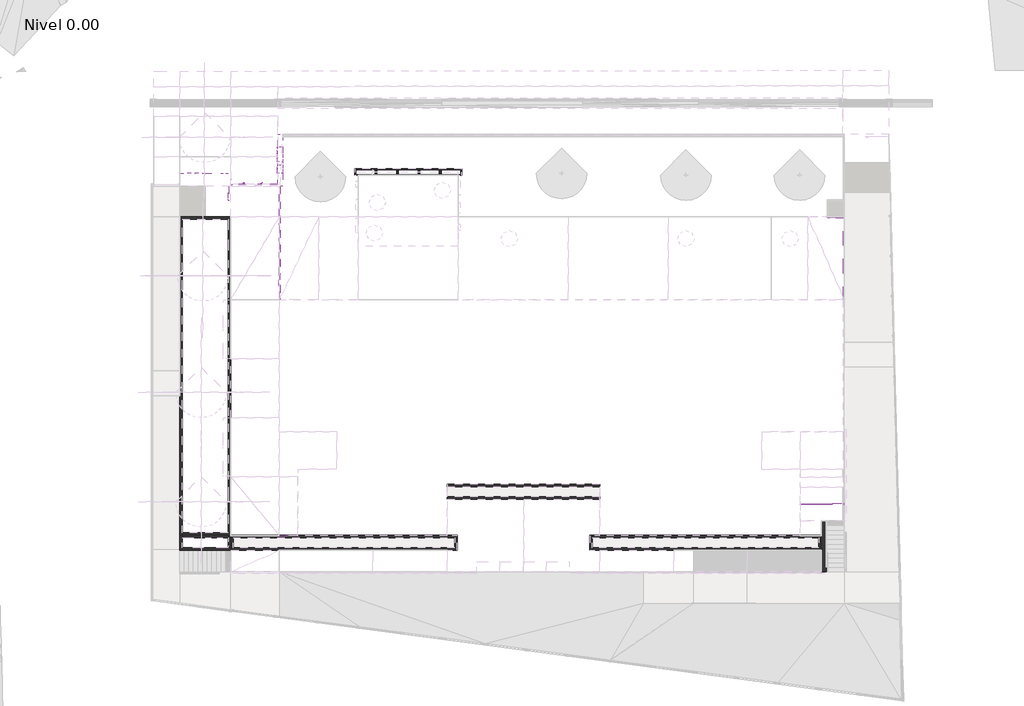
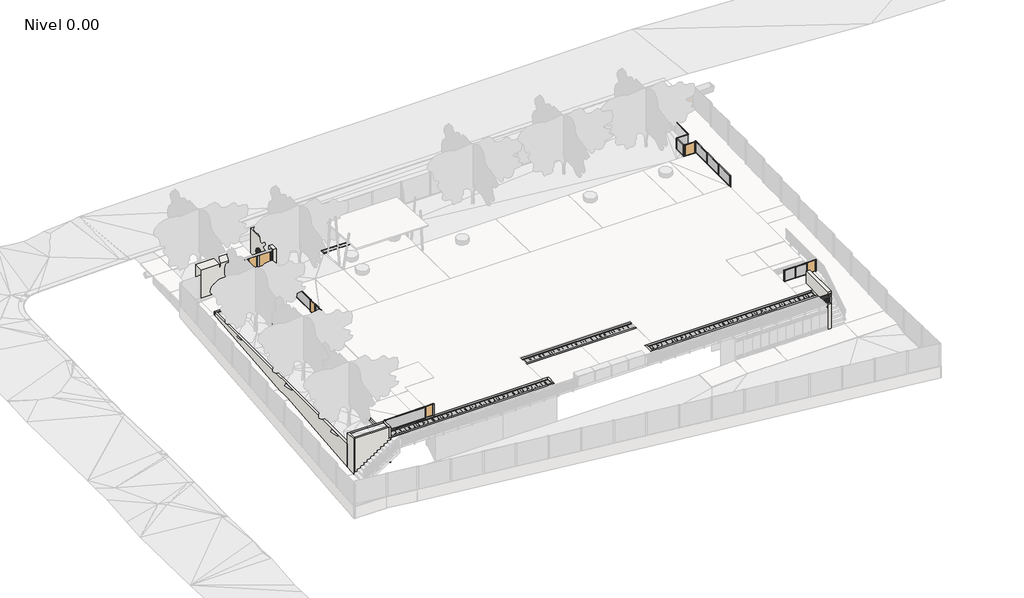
# One storey, part 1 of 10: 44 members, 33 walls, 10 plates, 7 doors, 2 windows.
"""IFC4 building model written with IfcOpenShell, lengths in millimetres."""

from ifc_helpers import new_model, si_unit, point, frame, frame_2d, origin, place, context, project, spatial, polyline, circle_curve, trimmed, segment, composite_curve, outline, extrude, faceted_brep, transform, mapped, element, save
from components import door_cf6ba6fa, door_d07a92cc, door_a481ca0a, door_52eb93c6, door_091492a4, door_068d60f1, door_34f0c045, rectangular_mullion_c413cd77, rectangular_mullion_c5fa3d75, rectangular_mullion_84e40a56, rectangular_mullion_3d152aff, rectangular_mullion_c6d73319, rectangular_mullion_d8214069, rectangular_mullion_757003fa, rectangular_mullion_abe161ce, rectangular_mullion_14b3989e, rectangular_mullion_b59bd4ae, rectangular_mullion_01378f82, rectangular_mullion_9e2e89eb, rectangular_mullion_f37d23f4, rectangular_mullion_c9c61bd4, rectangular_mullion_6e12e53f, system_panel_af5bab94, system_panel_932d7ef2, system_panel_01490582, system_panel_8750a649, system_panel_b523d4b8, system_panel_e05096ac, system_panel_b7fae75c, system_panel_18225d18, wall_07366346, window_e00e36fa, window_6bd4aa59

model = new_model("IFC4")

# Units and contexts
model_context = context("Model", 3, world=origin())
ifc_project = project(units=[si_unit("LENGTHUNIT", "METRE", prefix="MILLI")], contexts=[model_context])

# Site, building, storey
site = spatial("IfcSite", under=ifc_project)
building = spatial("IfcBuilding", under=site)
storey = spatial("IfcBuildingStorey", under=building, Name="Nivel 0.00", Elevation=0.0)

# Doors
placement = place(None, origin())
door_shape = door_cf6ba6fa(model_context)
element("IfcDoor", 1, ObjectType="PUERTA_REJA : PUERTA_REJA", at=placement, inside=storey, context=model_context, shape_type="MappedRepresentation", body=[
    mapped(door_shape, transform((-16804.7163958, 7729.2316763, 1500.0), x_axis=(1.0, 0.0, 0.0), y_axis=(0.0, 1.0, 0.0), z_axis=(0.0, 0.0, 1.0))),
])
door_2_shape = door_d07a92cc(model_context)
element("IfcDoor", 2, ObjectType="PORTON_REJA : PORTON_REJA", at=placement, inside=storey, context=model_context, shape_type="MappedRepresentation", body=[
    mapped(door_2_shape, transform((-18181.0857108, 7729.2316763, 1500.0), x_axis=(-1.0, 0.0, 0.0), y_axis=(0.0, -1.0, 0.0), z_axis=(0.0, 0.0, 1.0))),
])
door_3_shape = door_a481ca0a(model_context)
element("IfcDoor", 3, ObjectType="PUERTA_REJA_BAJA : PUERTA_REJA_BAJA", at=placement, inside=storey, context=model_context, shape_type="MappedRepresentation", body=[
    mapped(door_3_shape, transform((17605.9383945, -11567.4407068, 1520.0), x_axis=(1.0, 0.0, 0.0), y_axis=(0.0, 1.0, 0.0), z_axis=(0.0, 0.0, 1.0))),
])
door_4_shape = door_52eb93c6(model_context)
element("IfcDoor", 4, ObjectType="PUERTA_REJA_BAJA : PUERTA_REJA_BAJA", at=placement, inside=storey, context=model_context, shape_type="MappedRepresentation", body=[
    mapped(door_4_shape, transform((-15330.315191, -13485.5485726, 1520.0), x_axis=(1.0, 0.0, 0.0), y_axis=(0.0, 1.0, 0.0), z_axis=(0.0, 0.0, 1.0))),
])
door_5_shape = door_091492a4(model_context)
element("IfcDoor", 5, ObjectType="PUERTA_REJA_BAJA : PUERTA_REJA_BAJA", at=placement, inside=storey, context=model_context, shape_type="MappedRepresentation", body=[
    mapped(door_5_shape, transform((-16081.443742, 1973.925808, 1520.0), x_axis=(0.0, -1.0, 0.0), y_axis=(1.0, 0.0, 0.0), z_axis=(0.0, 0.0, 1.0))),
])
door_6_shape = door_068d60f1(model_context)
element("IfcDoor", 6, ObjectType="PORTON_REJA_baja : PORTON_REJA_baja", at=placement, inside=storey, context=model_context, shape_type="MappedRepresentation", body=[
    mapped(door_6_shape, transform((-19181.6280633, 6750.6088239, 1550.0), x_axis=(0.0, -1.0, 0.0), y_axis=(1.0, 0.0, 0.0), z_axis=(0.0, 0.0, 1.0))),
])
door_7_shape = door_34f0c045(model_context)
element("IfcDoor", 7, ObjectType="PUERTA_REJA_BAJA : PUERTA_REJA_BAJA", at=placement, inside=storey, context=model_context, shape_type="MappedRepresentation", body=[
    mapped(door_7_shape, transform((17473.4014064, 5761.4923287, 1500.0), x_axis=(1.0, 0.0, 0.0), y_axis=(0.0, 1.0, 0.0), z_axis=(0.0, 0.0, 1.0))),
])

# Members
rectangular_mullion_shape = rectangular_mullion_c413cd77(model_context)
element("IfcMember", 8, ObjectType="Rectangular Mullion : ARQ_REJA_PILAR_100x100mm", at=placement, inside=storey, context=model_context, shape_type="MappedRepresentation", body=[
    mapped(rectangular_mullion_shape, transform((-17354.5998704, 7729.2316763, 1500.0), x_axis=(-1.0, 0.0, 0.0), y_axis=(0.0, 1.0, 0.0), z_axis=(0.0, 0.0, -1.0))),
])
rectangular_mullion_2_shape = rectangular_mullion_c5fa3d75(model_context)
element("IfcMember", 9, ObjectType="Rectangular Mullion : ARQ_REJA_PILAR_100x100mm", at=placement, inside=storey, context=model_context, shape_type="MappedRepresentation", body=[
    mapped(rectangular_mullion_2_shape, transform((-19057.5715512, 7729.2316763, 1500.0), x_axis=(-1.0, 0.0, 0.0), y_axis=(0.0, 1.0, 0.0), z_axis=(0.0, 0.0, -1.0))),
])
element("IfcMember", 10, ObjectType="Rectangular Mullion : ARQ_REJA_PILAR_100x100mm", at=placement, inside=storey, context=model_context, shape_type="MappedRepresentation", body=[
    mapped(rectangular_mullion_2_shape, transform((-16204.8329211, 7729.2316763, 3600.0), x_axis=(1.0, 0.0, 0.0), y_axis=(0.0, 1.0, 0.0), z_axis=(0.0, 0.0, 1.0))),
])
rectangular_mullion_3_shape = rectangular_mullion_84e40a56(model_context)
element("IfcMember", 11, ObjectType="Rectangular Mullion : ARQ_REJA_MULL_50x50mm", at=placement, inside=storey, context=model_context, shape_type="MappedRepresentation", body=[
    mapped(rectangular_mullion_3_shape, transform((17231.3510433, -11567.4407068, 1520.0), x_axis=(-1.0, 0.0, 0.0), y_axis=(0.0, 1.0, 0.0), z_axis=(0.0, 0.0, -1.0))),
])
element("IfcMember", 12, ObjectType="Rectangular Mullion : ARQ_REJA_MULL_50x50mm", at=placement, inside=storey, context=model_context, shape_type="MappedRepresentation", body=[
    mapped(rectangular_mullion_3_shape, transform((16277.1763413, -11567.4407068, 1520.0), x_axis=(-1.0, 0.0, 0.0), y_axis=(0.0, 1.0, 0.0), z_axis=(0.0, 0.0, -1.0))),
])
element("IfcMember", 13, ObjectType="Rectangular Mullion : ARQ_REJA_MULL_50x50mm", at=placement, inside=storey, context=model_context, shape_type="MappedRepresentation", body=[
    mapped(rectangular_mullion_3_shape, transform((-15680.2663323, -13485.5485726, 1520.0), x_axis=(-1.0, 0.0, 0.0), y_axis=(0.0, 1.0, 0.0), z_axis=(0.0, 0.0, -1.0))),
])
element("IfcMember", 14, ObjectType="Rectangular Mullion : ARQ_REJA_MULL_50x50mm", at=placement, inside=storey, context=model_context, shape_type="MappedRepresentation", body=[
    mapped(rectangular_mullion_3_shape, transform((-16081.443742, 1624.0321854, 1520.0), x_axis=(0.0, 1.0, 0.0), y_axis=(1.0, 0.0, 0.0), z_axis=(0.0, 0.0, -1.0))),
])
element("IfcMember", 15, ObjectType="Rectangular Mullion : ARQ_REJA_MULL_50x50mm", at=placement, inside=storey, context=model_context, shape_type="MappedRepresentation", body=[
    mapped(rectangular_mullion_3_shape, transform((-16081.443742, 2323.8194307, 1520.0), x_axis=(0.0, 1.0, 0.0), y_axis=(1.0, 0.0, 0.0), z_axis=(0.0, 0.0, -1.0))),
])
rectangular_mullion_4_shape = rectangular_mullion_3d152aff(model_context)
element("IfcMember", 16, ObjectType="Rectangular Mullion : ARQ_REJA_MULL_50x50mm", at=placement, inside=storey, context=model_context, shape_type="MappedRepresentation", body=[
    mapped(rectangular_mullion_4_shape, transform((15325.501639, -11567.4407068, 1520.0), x_axis=(-1.0, 0.0, 0.0), y_axis=(0.0, 1.0, 0.0), z_axis=(0.0, 0.0, -1.0))),
])
element("IfcMember", 17, ObjectType="Rectangular Mullion : ARQ_REJA_MULL_50x50mm", at=placement, inside=storey, context=model_context, shape_type="MappedRepresentation", body=[
    mapped(rectangular_mullion_4_shape, transform((-19057.5708971, -13485.5485726, 1520.0), x_axis=(-1.0, 0.0, 0.0), y_axis=(0.0, 1.0, 0.0), z_axis=(0.0, 0.0, -1.0))),
])
element("IfcMember", 18, ObjectType="Rectangular Mullion : ARQ_REJA_MULL_50x50mm", at=placement, inside=storey, context=model_context, shape_type="MappedRepresentation", body=[
    mapped(rectangular_mullion_4_shape, transform((-16081.443742, 7629.2316763, 1520.0), x_axis=(0.0, 1.0, 0.0), y_axis=(1.0, 0.0, 0.0), z_axis=(0.0, 0.0, -1.0))),
])
rectangular_mullion_5_shape = rectangular_mullion_c6d73319(model_context)
element("IfcMember", 19, ObjectType="Rectangular Mullion : ARQ_REJA_MULL_50x30mm", at=placement, inside=storey, context=model_context, shape_type="MappedRepresentation", body=[
    mapped(rectangular_mullion_5_shape, transform((15375.501639, -11567.4407068, 2520.0), x_axis=(0.0, 0.0, 1.0), y_axis=(0.0, 1.0, 0.0), z_axis=(-1.0, 0.0, 0.0))),
])
rectangular_mullion_6_shape = rectangular_mullion_d8214069(model_context)
element("IfcMember", 20, ObjectType="Rectangular Mullion : ARQ_REJA_MULL_50x30mm", at=placement, inside=storey, context=model_context, shape_type="MappedRepresentation", body=[
    mapped(rectangular_mullion_6_shape, transform((17206.3510433, -11567.4407068, 1520.0), x_axis=(0.0, 0.0, -1.0), y_axis=(0.0, 1.0, 0.0), z_axis=(1.0, 0.0, 0.0))),
])
element("IfcMember", 21, ObjectType="Rectangular Mullion : ARQ_REJA_MULL_50x30mm", at=placement, inside=storey, context=model_context, shape_type="MappedRepresentation", body=[
    mapped(rectangular_mullion_6_shape, transform((16302.1763413, -11567.4407068, 2520.0), x_axis=(0.0, 0.0, 1.0), y_axis=(0.0, 1.0, 0.0), z_axis=(-1.0, 0.0, 0.0))),
])
element("IfcMember", 22, ObjectType="Rectangular Mullion : ARQ_REJA_MULL_50x30mm", at=placement, inside=storey, context=model_context, shape_type="MappedRepresentation", body=[
    mapped(rectangular_mullion_5_shape, transform((16252.1763413, -11567.4407068, 1520.0), x_axis=(0.0, 0.0, -1.0), y_axis=(0.0, 1.0, 0.0), z_axis=(1.0, 0.0, 0.0))),
])
element("IfcMember", 23, ObjectType="Rectangular Mullion : ARQ_REJA_MULL_50x50mm", at=placement, inside=storey, context=model_context, shape_type="MappedRepresentation", body=[
    mapped(rectangular_mullion_4_shape, transform((18005.5257456, -11567.4407068, 2520.0), x_axis=(1.0, 0.0, 0.0), y_axis=(0.0, 1.0, 0.0), z_axis=(0.0, 0.0, 1.0))),
])
element("IfcMember", 24, ObjectType="Rectangular Mullion : ARQ_REJA_MULL_50x50mm", at=placement, inside=storey, context=model_context, shape_type="MappedRepresentation", body=[
    mapped(rectangular_mullion_4_shape, transform((-14955.3640497, -13485.5485726, 2520.0), x_axis=(1.0, 0.0, 0.0), y_axis=(0.0, 1.0, 0.0), z_axis=(0.0, 0.0, 1.0))),
])
rectangular_mullion_7_shape = rectangular_mullion_757003fa(model_context)
element("IfcMember", 25, ObjectType="Rectangular Mullion : ARQ_REJA_MULL_50x30mm", at=placement, inside=storey, context=model_context, shape_type="MappedRepresentation", body=[
    mapped(rectangular_mullion_7_shape, transform((-19007.5708971, -13485.5485726, 2520.0), x_axis=(0.0, 0.0, 1.0), y_axis=(0.0, 1.0, 0.0), z_axis=(-1.0, 0.0, 0.0))),
])
element("IfcMember", 26, ObjectType="Rectangular Mullion : ARQ_REJA_MULL_50x30mm", at=placement, inside=storey, context=model_context, shape_type="MappedRepresentation", body=[
    mapped(rectangular_mullion_7_shape, transform((-15705.2663323, -13485.5485726, 1520.0), x_axis=(0.0, 0.0, -1.0), y_axis=(0.0, 1.0, 0.0), z_axis=(1.0, 0.0, 0.0))),
])
element("IfcMember", 27, ObjectType="Rectangular Mullion : ARQ_REJA_MULL_50x50mm", at=placement, inside=storey, context=model_context, shape_type="MappedRepresentation", body=[
    mapped(rectangular_mullion_4_shape, transform((-16081.443742, 775.4949398, 2520.0), x_axis=(0.0, -1.0, 0.0), y_axis=(1.0, 0.0, 0.0), z_axis=(0.0, 0.0, 1.0))),
])
rectangular_mullion_8_shape = rectangular_mullion_abe161ce(model_context)
element("IfcMember", 28, ObjectType="Rectangular Mullion : ARQ_REJA_MULL_50x30mm", at=placement, inside=storey, context=model_context, shape_type="MappedRepresentation", body=[
    mapped(rectangular_mullion_8_shape, transform((-16081.443742, 7579.2316763, 2520.0), x_axis=(0.0, 0.0, 1.0), y_axis=(1.0, 0.0, 0.0), z_axis=(0.0, 1.0, 0.0))),
])
element("IfcMember", 29, ObjectType="Rectangular Mullion : ARQ_REJA_MULL_50x30mm", at=placement, inside=storey, context=model_context, shape_type="MappedRepresentation", body=[
    mapped(rectangular_mullion_8_shape, transform((-16081.443742, 2348.8194307, 1520.0), x_axis=(0.0, 0.0, -1.0), y_axis=(1.0, 0.0, 0.0), z_axis=(0.0, -1.0, 0.0))),
])
rectangular_mullion_9_shape = rectangular_mullion_14b3989e(model_context)
element("IfcMember", 30, ObjectType="Rectangular Mullion : ARQ_REJA_MULL_50x30mm", at=placement, inside=storey, context=model_context, shape_type="MappedRepresentation", body=[
    mapped(rectangular_mullion_9_shape, transform((-16081.443742, 1599.0321854, 2520.0), x_axis=(0.0, 0.0, 1.0), y_axis=(1.0, 0.0, 0.0), z_axis=(0.0, 1.0, 0.0))),
])
element("IfcMember", 31, ObjectType="Rectangular Mullion : ARQ_REJA_MULL_50x30mm", at=placement, inside=storey, context=model_context, shape_type="MappedRepresentation", body=[
    mapped(rectangular_mullion_9_shape, transform((-16081.443742, 825.4949398, 1520.0), x_axis=(0.0, 0.0, -1.0), y_axis=(1.0, 0.0, 0.0), z_axis=(0.0, -1.0, 0.0))),
])
rectangular_mullion_10_shape = rectangular_mullion_b59bd4ae(model_context)
element("IfcMember", 32, ObjectType="Rectangular Mullion : ARQ_REJA_MULL_50x30mm", at=placement, inside=storey, context=model_context, shape_type="MappedRepresentation", body=[
    mapped(rectangular_mullion_10_shape, transform((17966.2770642, 6837.2563048, 2480.0), x_axis=(0.0, 0.0, 1.0), y_axis=(-1.0, 0.0, 0.0), z_axis=(0.0, -1.0, 0.0))),
])
rectangular_mullion_11_shape = rectangular_mullion_01378f82(model_context)
element("IfcMember", 33, ObjectType="Rectangular Mullion : ARQ_REJA_MULL_50x30mm", at=placement, inside=storey, context=model_context, shape_type="MappedRepresentation", body=[
    mapped(rectangular_mullion_11_shape, transform((17030.5257486, 6787.2563048, 2480.0), x_axis=(0.0, 0.0, 1.0), y_axis=(0.0, 1.0, 0.0), z_axis=(-1.0, 0.0, 0.0))),
])
rectangular_mullion_12_shape = rectangular_mullion_9e2e89eb(model_context)
element("IfcMember", 34, ObjectType="Rectangular Mullion : ARQ_REJA_MULL_50x50mm", at=placement, inside=storey, context=model_context, shape_type="MappedRepresentation", body=[
    mapped(rectangular_mullion_12_shape, transform((17966.2770642, 4088.1589952, 1500.0), x_axis=(0.0, -1.0, 0.0), y_axis=(-1.0, 0.0, 0.0), z_axis=(0.0, 0.0, -1.0))),
])
element("IfcMember", 35, ObjectType="Rectangular Mullion : ARQ_REJA_MULL_50x50mm", at=placement, inside=storey, context=model_context, shape_type="MappedRepresentation", body=[
    mapped(rectangular_mullion_12_shape, transform((17966.2770642, 2414.8256619, 1500.0), x_axis=(0.0, -1.0, 0.0), y_axis=(-1.0, 0.0, 0.0), z_axis=(0.0, 0.0, -1.0))),
])
rectangular_mullion_13_shape = rectangular_mullion_f37d23f4(model_context)
element("IfcMember", 36, ObjectType="Rectangular Mullion : ARQ_REJA_MULL_50x50mm", at=placement, inside=storey, context=model_context, shape_type="MappedRepresentation", body=[
    mapped(rectangular_mullion_13_shape, transform((17966.2770642, 6787.2563048, 1500.0), x_axis=(0.0, -1.0, 0.0), y_axis=(-1.0, 0.0, 0.0), z_axis=(0.0, 0.0, -1.0))),
])
element("IfcMember", 37, ObjectType="Rectangular Mullion : ARQ_REJA_MULL_50x50mm", at=placement, inside=storey, context=model_context, shape_type="MappedRepresentation", body=[
    mapped(rectangular_mullion_13_shape, transform((16980.5257486, 6787.2563048, 1500.0), x_axis=(-1.0, 0.0, 0.0), y_axis=(0.0, 1.0, 0.0), z_axis=(0.0, 0.0, -1.0))),
])
element("IfcMember", 38, ObjectType="Rectangular Mullion : ARQ_REJA_MULL_50x50mm", at=placement, inside=storey, context=model_context, shape_type="MappedRepresentation", body=[
    mapped(rectangular_mullion_13_shape, transform((16980.5257486, 5736.4923284, 1500.0), x_axis=(0.0, -1.0, 0.0), y_axis=(-1.0, 0.0, 0.0), z_axis=(0.0, 0.0, -1.0))),
])
element("IfcMember", 39, ObjectType="Rectangular Mullion : ARQ_REJA_MULL_50x50mm", at=placement, inside=storey, context=model_context, shape_type="MappedRepresentation", body=[
    mapped(rectangular_mullion_13_shape, transform((17966.2770642, 716.4923284, 1500.0), x_axis=(0.0, -1.0, 0.0), y_axis=(-1.0, 0.0, 0.0), z_axis=(0.0, 0.0, -1.0))),
])
element("IfcMember", 40, ObjectType="Rectangular Mullion : ARQ_REJA_MULL_50x50mm", at=placement, inside=storey, context=model_context, shape_type="MappedRepresentation", body=[
    mapped(rectangular_mullion_13_shape, transform((16980.5257486, 6787.2563048, 2480.0), x_axis=(0.0, 1.0, 0.0), y_axis=(-1.0, 0.0, 0.0), z_axis=(0.0, 0.0, 1.0))),
])
element("IfcMember", 41, ObjectType="Rectangular Mullion : ARQ_REJA_MULL_50x50mm", at=placement, inside=storey, context=model_context, shape_type="MappedRepresentation", body=[
    mapped(rectangular_mullion_13_shape, transform((17966.2770642, 5786.4923287, 2480.0), x_axis=(0.0, 1.0, 0.0), y_axis=(-1.0, 0.0, 0.0), z_axis=(0.0, 0.0, 1.0))),
])
rectangular_mullion_14_shape = rectangular_mullion_c9c61bd4(model_context)
element("IfcMember", 42, ObjectType="Rectangular Mullion : ARQ_REJA_MULL_50x30mm", at=placement, inside=storey, context=model_context, shape_type="MappedRepresentation", body=[
    mapped(rectangular_mullion_14_shape, transform((16980.5257486, 5786.4923284, 2480.0), x_axis=(0.0, 0.0, 1.0), y_axis=(-1.0, 0.0, 0.0), z_axis=(0.0, -1.0, 0.0))),
])
element("IfcMember", 43, ObjectType="Rectangular Mullion : ARQ_REJA_MULL_50x30mm", at=placement, inside=storey, context=model_context, shape_type="MappedRepresentation", body=[
    mapped(rectangular_mullion_14_shape, transform((16980.5257486, 6737.2563048, 1500.0), x_axis=(0.0, 0.0, -1.0), y_axis=(-1.0, 0.0, 0.0), z_axis=(0.0, 1.0, 0.0))),
])
rectangular_mullion_15_shape = rectangular_mullion_6e12e53f(model_context)
element("IfcMember", 44, ObjectType="Rectangular Mullion : ARQ_REJA_MULL_50x30mm", at=placement, inside=storey, context=model_context, shape_type="MappedRepresentation", body=[
    mapped(rectangular_mullion_15_shape, transform((17966.2770642, 766.4923284, 2480.0), x_axis=(0.0, 0.0, 1.0), y_axis=(-1.0, 0.0, 0.0), z_axis=(0.0, -1.0, 0.0))),
])
element("IfcMember", 45, ObjectType="Rectangular Mullion : ARQ_REJA_MULL_50x30mm", at=placement, inside=storey, context=model_context, shape_type="MappedRepresentation", body=[
    mapped(rectangular_mullion_15_shape, transform((17966.2770642, 4113.1589952, 2480.0), x_axis=(0.0, 0.0, 1.0), y_axis=(-1.0, 0.0, 0.0), z_axis=(0.0, -1.0, 0.0))),
])
element("IfcMember", 46, ObjectType="Rectangular Mullion : ARQ_REJA_MULL_50x30mm", at=placement, inside=storey, context=model_context, shape_type="MappedRepresentation", body=[
    mapped(rectangular_mullion_15_shape, transform((17966.2770642, 2439.8256619, 2480.0), x_axis=(0.0, 0.0, 1.0), y_axis=(-1.0, 0.0, 0.0), z_axis=(0.0, -1.0, 0.0))),
])
element("IfcMember", 47, ObjectType="Rectangular Mullion : ARQ_REJA_MULL_50x30mm", at=placement, inside=storey, context=model_context, shape_type="MappedRepresentation", body=[
    mapped(rectangular_mullion_15_shape, transform((17966.2770642, 5736.4923287, 1500.0), x_axis=(0.0, 0.0, -1.0), y_axis=(-1.0, 0.0, 0.0), z_axis=(0.0, 1.0, 0.0))),
])
element("IfcMember", 48, ObjectType="Rectangular Mullion : ARQ_REJA_MULL_50x30mm", at=placement, inside=storey, context=model_context, shape_type="MappedRepresentation", body=[
    mapped(rectangular_mullion_15_shape, transform((17966.2770642, 4063.1589952, 1500.0), x_axis=(0.0, 0.0, -1.0), y_axis=(-1.0, 0.0, 0.0), z_axis=(0.0, 1.0, 0.0))),
])
element("IfcMember", 49, ObjectType="Rectangular Mullion : ARQ_REJA_MULL_50x30mm", at=placement, inside=storey, context=model_context, shape_type="MappedRepresentation", body=[
    mapped(rectangular_mullion_15_shape, transform((17966.2770642, 2389.8256619, 1500.0), x_axis=(0.0, 0.0, -1.0), y_axis=(-1.0, 0.0, 0.0), z_axis=(0.0, 1.0, 0.0))),
])
element("IfcMember", 50, ObjectType="Rectangular Mullion : ARQ_REJA_MULL_50x50mm", at=placement, inside=storey, context=model_context, shape_type="MappedRepresentation", body=[
    mapped(rectangular_mullion_13_shape, transform((17941.2770642, 5761.4923287, 1500.0), x_axis=(1.0, 0.0, 0.0), y_axis=(0.0, -1.0, 0.0), z_axis=(0.0, 0.0, -1.0))),
])
element("IfcMember", 51, ObjectType="Rectangular Mullion : ARQ_REJA_MULL_50x50mm", at=placement, inside=storey, context=model_context, shape_type="MappedRepresentation", body=[
    mapped(rectangular_mullion_13_shape, transform((17005.5257486, 5761.4923287, 2480.0), x_axis=(-1.0, 0.0, 0.0), y_axis=(0.0, -1.0, 0.0), z_axis=(0.0, 0.0, 1.0))),
])

# Plates
system_panel_shape = system_panel_af5bab94(model_context)
element("IfcPlate", 52, ObjectType="System Panel : MALLA ACMA", at=placement, inside=storey, context=model_context, shape_type="MappedRepresentation", body=[
    mapped(system_panel_shape, transform((16754.2636923, -11567.4407068, 1550.0), x_axis=(-1.0, 0.0, 0.0), y_axis=(0.0, -1.0, 0.0), z_axis=(0.0, 0.0, 1.0))),
])
system_panel_2_shape = system_panel_932d7ef2(model_context)
element("IfcPlate", 53, ObjectType="System Panel : MALLA ACMA", at=placement, inside=storey, context=model_context, shape_type="MappedRepresentation", body=[
    mapped(system_panel_2_shape, transform((15813.8389901, -11567.4407068, 1550.0), x_axis=(-1.0, 0.0, 0.0), y_axis=(0.0, -1.0, 0.0), z_axis=(0.0, 0.0, 1.0))),
])
system_panel_3_shape = system_panel_01490582(model_context)
element("IfcPlate", 54, ObjectType="System Panel : MALLA ACMA", at=placement, inside=storey, context=model_context, shape_type="MappedRepresentation", body=[
    mapped(system_panel_3_shape, transform((-17356.4186147, -13485.5485726, 1550.0), x_axis=(-1.0, 0.0, 0.0), y_axis=(0.0, -1.0, 0.0), z_axis=(0.0, 0.0, 1.0))),
])
system_panel_4_shape = system_panel_8750a649(model_context)
element("IfcPlate", 55, ObjectType="System Panel : MALLA ACMA", at=placement, inside=storey, context=model_context, shape_type="MappedRepresentation", body=[
    mapped(system_panel_4_shape, transform((-16081.443742, 4964.0255535, 1550.0), x_axis=(0.0, 1.0, 0.0), y_axis=(-1.0, 0.0, 0.0), z_axis=(0.0, 0.0, 1.0))),
])
system_panel_5_shape = system_panel_b523d4b8(model_context)
element("IfcPlate", 56, ObjectType="System Panel : MALLA ACMA", at=placement, inside=storey, context=model_context, shape_type="MappedRepresentation", body=[
    mapped(system_panel_5_shape, transform((-16081.443742, 1212.2635626, 1550.0), x_axis=(0.0, 1.0, 0.0), y_axis=(-1.0, 0.0, 0.0), z_axis=(0.0, 0.0, 1.0))),
])
system_panel_6_shape = system_panel_e05096ac(model_context)
element("IfcPlate", 57, ObjectType="System Panel : MALLA ACMA", at=placement, inside=storey, context=model_context, shape_type="MappedRepresentation", body=[
    mapped(system_panel_6_shape, transform((17473.4014064, 6787.2563048, 1530.0), x_axis=(-1.0, 0.0, 0.0), y_axis=(0.0, -1.0, 0.0), z_axis=(0.0, 0.0, 1.0))),
])
system_panel_7_shape = system_panel_b7fae75c(model_context)
element("IfcPlate", 58, ObjectType="System Panel : MALLA ACMA", at=placement, inside=storey, context=model_context, shape_type="MappedRepresentation", body=[
    mapped(system_panel_7_shape, transform((16980.5257486, 6261.8743166, 1530.0), x_axis=(0.0, -1.0, 0.0), y_axis=(1.0, 0.0, 0.0), z_axis=(0.0, 0.0, 1.0))),
])
system_panel_8_shape = system_panel_18225d18(model_context)
element("IfcPlate", 59, ObjectType="System Panel : MALLA ACMA", at=placement, inside=storey, context=model_context, shape_type="MappedRepresentation", body=[
    mapped(system_panel_8_shape, transform((17966.2770642, 4924.8256619, 1530.0), x_axis=(0.0, -1.0, 0.0), y_axis=(1.0, 0.0, 0.0), z_axis=(0.0, 0.0, 1.0))),
])
element("IfcPlate", 60, ObjectType="System Panel : MALLA ACMA", at=placement, inside=storey, context=model_context, shape_type="MappedRepresentation", body=[
    mapped(system_panel_8_shape, transform((17966.2770642, 3251.4923285, 1530.0), x_axis=(0.0, -1.0, 0.0), y_axis=(1.0, 0.0, 0.0), z_axis=(0.0, 0.0, 1.0))),
])
element("IfcPlate", 61, ObjectType="System Panel : MALLA ACMA", at=placement, inside=storey, context=model_context, shape_type="MappedRepresentation", body=[
    mapped(system_panel_8_shape, transform((17966.2770642, 1578.1589952, 1530.0), x_axis=(0.0, -1.0, 0.0), y_axis=(1.0, 0.0, 0.0), z_axis=(0.0, 0.0, 1.0))),
])

# Walls
wall_shape = wall_07366346(model_context)
element("IfcWall", 62, ObjectType="MURO_NICHO1 : MURO_NICHO", at=placement, inside=storey, context=model_context, shape_type="MappedRepresentation", body=[
    mapped(wall_shape, transform((0.0, 0.0, 0.0), x_axis=(1.0, 0.0, 0.0), y_axis=(0.0, 1.0, 0.0), z_axis=(0.0, 0.0, 1.0))),
])
element("IfcWall", 63, ObjectType="ARQ_FND_HA_150mm", at=placement, inside=storey, context=model_context, shape_type="Brep", body=[
    faceted_brep([(-5519.7329107, -13450.5485726, 1100.0), (-19057.5715014, -13450.5485726, 1100.0), (-19057.5715014, -13450.5485726, 1500.0), (-5519.7329107, -13450.5485726, 1500.0), (-5519.7329107, -13600.5485726, 1100.0), (-5519.7329107, -13600.5485726, 1500.0), (-18907.5715014, -13600.5485726, 1500.0), (-19057.5715014, -13600.5485726, 1500.0), (-19057.5715014, -13600.5485726, 1100.0), (-18907.5715014, -13600.5485726, 1100.0)], [[[0, 1, 2, 3]], [[4, 5, 6, 7, 8, 9]], [[1, 0, 4, 9, 8]], [[3, 2, 7, 6, 5]], [[0, 3, 5, 4]], [[2, 1, 8, 7]]]),
])
element("IfcWall", 64, ObjectType="ARQ_FND_HA_150mm", at=placement, inside=storey, context=model_context, shape_type="SweptSolid", body=[
    extrude(outline(polyline([(-19057.5715014, -14200.4600242), (-19057.5715014, -13600.5485726), (-18907.5715014, -13600.5485726), (-18907.5715014, -14200.4600242), (-19057.5715014, -14200.4600242)])), frame((0.0, 0.0, 1100.0), z_axis=(0.0, 0.0, 1.0), x_axis=(1.0, 0.0, 0.0)), (0.0, 0.0, 1.0), 400.0),
])
element("IfcWall", 65, ObjectType="ARQ_FND_HA_150mm", at=placement, inside=storey, context=model_context, shape_type="Brep", body=[
    faceted_brep([(-19057.5715014, -14350.4600242, 1100.0), (-5369.7329107, -14350.4600242, 1100.0), (-5369.7329107, -14350.4600242, 1500.0), (-19057.5715014, -14350.4600242, 1500.0), (-19057.5715014, -14200.4600242, 1100.0), (-19057.5715014, -14200.4600242, 1500.0), (-18907.5715014, -14200.4600242, 1500.0), (-5519.7329107, -14200.4600242, 1500.0), (-5369.7329107, -14200.4600242, 1500.0), (-5369.7329107, -14200.4600242, 1100.0), (-5519.7329107, -14200.4600242, 1100.0), (-18907.5715014, -14200.4600242, 1100.0)], [[[0, 1, 2, 3]], [[4, 5, 6, 7, 8, 9, 10, 11]], [[1, 0, 4, 11, 10, 9]], [[3, 2, 8, 7, 6, 5]], [[2, 1, 9, 8]], [[0, 3, 5, 4]]]),
])
element("IfcWall", 66, ObjectType="ARQ_FND_HA_150mm", at=placement, inside=storey, context=model_context, shape_type="Brep", body=[
    faceted_brep([(-5369.7329107, -14200.4600242, 1100.0), (-5369.7329107, -13450.5485726, 1100.0), (-5369.7329107, -13450.5485726, 1500.0), (-5369.7329107, -14200.4600242, 1500.0), (-5519.7329107, -14200.4600242, 1100.0), (-5519.7329107, -14200.4600242, 1500.0), (-5519.7329107, -13600.5485726, 1500.0), (-5519.7329107, -13450.5485726, 1500.0), (-5519.7329107, -13450.5485726, 1100.0), (-5519.7329107, -13600.5485726, 1100.0)], [[[0, 1, 2, 3]], [[4, 5, 6, 7, 8, 9]], [[1, 0, 4, 9, 8]], [[3, 2, 7, 6, 5]], [[0, 3, 5, 4]], [[2, 1, 8, 7]]]),
])
element("IfcWall", 67, ObjectType="ARQ_FND_HA_150mm", at=placement, inside=storey, context=model_context, shape_type="Brep", body=[
    faceted_brep([(2627.4842547, -13450.5485726, 1100.0), (2627.4842547, -14350.460038, 1100.0), (2627.4842547, -14350.460038, 1500.0), (2627.4842547, -13450.5485726, 1500.0), (2777.4842547, -13450.5485726, 1100.0), (2777.4842547, -13450.5485726, 1500.0), (2777.4842547, -13600.5485726, 1500.0), (2777.4842547, -14200.460038, 1500.0), (2777.4842547, -14350.460038, 1500.0), (2777.4842547, -14350.460038, 1100.0), (2777.4842547, -14200.460038, 1100.0), (2777.4842547, -13600.5485726, 1100.0)], [[[0, 1, 2, 3]], [[4, 5, 6, 7, 8, 9, 10, 11]], [[1, 0, 4, 11, 10, 9]], [[3, 2, 8, 7, 6, 5]], [[2, 1, 9, 8]], [[0, 3, 5, 4]]]),
])
element("IfcWall", 68, ObjectType="ARQ_FND_HA_150mm", at=placement, inside=storey, context=model_context, shape_type="Brep", body=[
    faceted_brep([(2777.4842547, -14350.460038, 1100.0), (16605.5250488, -14350.460038, 1100.0), (16605.5250488, -14350.460038, 1500.0), (2777.4842547, -14350.460038, 1500.0), (2777.4842547, -14200.460038, 1100.0), (2777.4842547, -14200.460038, 1500.0), (16455.5250488, -14200.460038, 1500.0), (16605.5250488, -14200.460038, 1500.0), (16605.5250488, -14200.460038, 1100.0), (16455.5250488, -14200.460038, 1100.0)], [[[0, 1, 2, 3]], [[4, 5, 6, 7, 8, 9]], [[1, 0, 4, 9, 8]], [[3, 2, 7, 6, 5]], [[0, 3, 5, 4]], [[2, 1, 8, 7]]]),
])
element("IfcWall", 69, ObjectType="ARQ_FND_HA_150mm", at=placement, inside=storey, context=model_context, shape_type="Brep", body=[
    faceted_brep([(16605.5250488, -14200.460038, 1100.0), (16605.5250488, -13450.5485726, 1100.0), (16605.5250488, -13450.5485726, 1500.0), (16605.5250488, -14200.460038, 1500.0), (16455.5250488, -14200.460038, 1100.0), (16455.5250488, -14200.460038, 1500.0), (16455.5250488, -13600.5485726, 1500.0), (16455.5250488, -13450.5485726, 1500.0), (16455.5250488, -13450.5485726, 1100.0), (16455.5250488, -13600.5485726, 1100.0)], [[[0, 1, 2, 3]], [[4, 5, 6, 7, 8, 9]], [[1, 0, 4, 9, 8]], [[3, 2, 7, 6, 5]], [[0, 3, 5, 4]], [[2, 1, 8, 7]]]),
])
element("IfcWall", 70, ObjectType="ARQ_FND_HA_150mm", at=placement, inside=storey, context=model_context, shape_type="SweptSolid", body=[
    extrude(outline(polyline([(2777.4842547, -13450.5485726), (16455.5250488, -13450.5485726), (16455.5250488, -13600.5485726), (2777.4842547, -13600.5485726), (2777.4842547, -13450.5485726)])), frame((0.0, 0.0, 1100.0), z_axis=(0.0, 0.0, 1.0), x_axis=(1.0, 0.0, 0.0)), (0.0, 0.0, 1.0), 400.0),
])
element("IfcWall", 71, ObjectType="ARQ_FND_HA_150mm", at=placement, inside=storey, context=model_context, shape_type="SweptSolid", body=[
    extrude(outline(polyline([(3227.1464348, -10500.5617629), (-5970.0557705, -10500.5617629), (-5970.0557705, -10350.5617629), (3227.1464348, -10350.5617629), (3227.1464348, -10500.5617629)])), frame((0.0, 0.0, 1100.0), z_axis=(0.0, 0.0, 1.0), x_axis=(1.0, 0.0, 0.0)), (0.0, 0.0, 1.0), 380.0),
])
element("IfcWall", 72, ObjectType="ARQ_FND_HA_150mm", at=placement, inside=storey, context=model_context, shape_type="SweptSolid", body=[
    extrude(outline(polyline([(3227.1464348, -11250.5609005), (-5970.0557705, -11250.5609005), (-5970.0557705, -11100.5609005), (3227.1464348, -11100.5609005), (3227.1464348, -11250.5609005)])), frame((0.0, 0.0, 1100.0), z_axis=(0.0, 0.0, 1.0), x_axis=(1.0, 0.0, 0.0)), (0.0, 0.0, 1.0), 380.0),
])
element("IfcWall", 73, ObjectType="ARQ_FND_HA_150mm", at=placement, inside=storey, context=model_context, shape_type="Brep", body=[
    faceted_brep([(-19057.5708971, 5790.5963689, -660.0), (-22137.5806331, 5790.5963689, -660.0), (-22137.5806331, 5790.5963689, 1500.0), (-19057.5708971, 5790.5963689, 1500.0), (-19057.5708971, 5640.5963689, -660.0), (-19057.5708971, 5640.5963689, 1500.0), (-19207.5708971, 5640.5963689, 1500.0), (-21987.5806331, 5640.5963689, 1500.0), (-22137.5806331, 5640.5963689, 1500.0), (-22137.5806331, 5640.5963689, -660.0), (-21987.5806331, 5640.5963689, -660.0), (-19207.5708971, 5640.5963689, -660.0)], [[[0, 1, 2, 3]], [[4, 5, 6, 7, 8, 9, 10, 11]], [[1, 0, 4, 11, 10, 9]], [[3, 2, 8, 7, 6, 5]], [[2, 1, 9, 8]], [[0, 3, 5, 4]]]),
])
element("IfcWall", 74, ObjectType="ARQ_FND_HA_150mm", at=placement, inside=storey, context=model_context, shape_type="Brep", body=[
    faceted_brep([(-22137.5806331, 5640.5963689, -660.0), (-22137.5806331, -13450.6047653, -660.0), (-22137.5806331, -13450.6047653, 1500.0), (-22137.5806331, 5640.5963689, 1500.0), (-21987.5806331, 5640.5963689, -660.0), (-21987.5806331, 5640.5963689, 1500.0), (-21987.5806331, -13300.6047653, 1500.0), (-21987.5806331, -13450.6047653, 1500.0), (-21987.5806331, -13450.6047653, -660.0), (-21987.5806331, -13300.6047653, -660.0)], [[[0, 1, 2, 3]], [[4, 5, 6, 7, 8, 9]], [[1, 0, 4, 9, 8]], [[3, 2, 7, 6, 5]], [[0, 3, 5, 4]], [[2, 1, 8, 7]]]),
])
element("IfcWall", 75, ObjectType="ARQ_FND_HA_150mm", at=placement, inside=storey, context=model_context, shape_type="Brep", body=[
    faceted_brep([(-21987.5806331, -13450.6047653, -660.0), (-19057.5708971, -13450.6047653, -660.0), (-19057.5708971, -13450.6047653, 1500.0), (-21987.5806331, -13450.6047653, 1500.0), (-21987.5806331, -13300.6047653, -660.0), (-21987.5806331, -13300.6047653, 1500.0), (-19207.5708971, -13300.6047653, 1500.0), (-19057.5708971, -13300.6047653, 1500.0), (-19057.5708971, -13300.6047653, -660.0), (-19207.5708971, -13300.6047653, -660.0)], [[[0, 1, 2, 3]], [[4, 5, 6, 7, 8, 9]], [[1, 0, 4, 9, 8]], [[3, 2, 7, 6, 5]], [[0, 3, 5, 4]], [[2, 1, 8, 7]]]),
])
element("IfcWall", 76, ObjectType="ARQ_FND_HA_150mm", at=placement, inside=storey, context=model_context, shape_type="SweptSolid", body=[
    extrude(outline(polyline([(-19057.5708971, 5640.5963689), (-19057.5708971, -13300.6047653), (-19207.5708971, -13300.6047653), (-19207.5708971, 5640.5963689), (-19057.5708971, 5640.5963689)])), frame((0.0, 0.0, -660.0), z_axis=(0.0, 0.0, 1.0), x_axis=(1.0, 0.0, 0.0)), (0.0, 0.0, 1.0), 2160.0),
])
element("IfcWall", 77, ObjectType="ARQ_FND_HA_50mm", at=placement, inside=storey, context=model_context, shape_type="Brep", body=[
    faceted_brep([(-11560.1946442, 8630.9816931, 1000.0), (-11510.1946442, 8630.9816931, 1000.0), (-10320.1946442, 8630.9816931, 1000.0), (-10270.1946442, 8630.9816931, 1000.0), (-10220.1946442, 8630.9816931, 1000.0), (-9030.1946442, 8630.9816931, 1000.0), (-8980.1946442, 8630.9816931, 1000.0), (-8930.1946442, 8630.9816931, 1000.0), (-7740.1946442, 8630.9816931, 1000.0), (-7690.1946442, 8630.9816931, 1000.0), (-7640.1946442, 8630.9816931, 1000.0), (-6450.1946442, 8630.9816931, 1000.0), (-6400.1946442, 8630.9816931, 1000.0), (-6350.1946442, 8630.9816931, 1000.0), (-5145.0930767, 8630.9816931, 1000.0), (-5095.0930767, 8630.9816931, 1000.0), (-5095.0930767, 8630.9816931, 1400.0), (-5145.0930767, 8630.9816931, 1400.0), (-6350.1946442, 8630.9816931, 1400.0), (-6400.1946442, 8630.9816931, 1400.0), (-6450.1946442, 8630.9816931, 1400.0), (-7640.1946442, 8630.9816931, 1400.0), (-7690.1946442, 8630.9816931, 1400.0), (-7740.1946442, 8630.9816931, 1400.0), (-8930.1946442, 8630.9816931, 1400.0), (-8980.1946442, 8630.9816931, 1400.0), (-9030.1946442, 8630.9816931, 1400.0), (-10220.1946442, 8630.9816931, 1400.0), (-10270.1946442, 8630.9816931, 1400.0), (-10320.1946442, 8630.9816931, 1400.0), (-11510.1946442, 8630.9816931, 1400.0), (-11560.1946442, 8630.9816931, 1400.0), (-11560.1946442, 8680.9816931, 1000.0), (-11560.1946442, 8680.9816931, 1400.0), (-5095.0930767, 8680.9816931, 1400.0), (-5095.0930767, 8680.9816931, 1000.0)], [[[0, 1, 2, 3, 4, 5, 6, 7, 8, 9, 10, 11, 12, 13, 14, 15, 16, 17, 18, 19, 20, 21, 22, 23, 24, 25, 26, 27, 28, 29, 30, 31]], [[32, 33, 34, 35]], [[15, 14, 13, 12, 11, 10, 9, 8, 7, 6, 5, 4, 3, 2, 1, 0, 32, 35]], [[31, 30, 29, 28, 27, 26, 25, 24, 23, 22, 21, 20, 19, 18, 17, 16, 34, 33]], [[0, 31, 33, 32]], [[16, 15, 35, 34]]]),
])
element("IfcWall", 78, ObjectType="ARQ_FND_HA_50mm", at=placement, inside=storey, context=model_context, shape_type="Brep", body=[
    faceted_brep([(-11510.1946442, 8280.9816931, 1000.0), (-11510.1946442, 8330.9816931, 1000.0), (-11510.1946442, 8630.9816931, 1000.0), (-11510.1946442, 8630.9816931, 1400.0), (-11510.1946442, 8330.9816931, 1400.0), (-11510.1946442, 8280.9816931, 1400.0), (-11560.1946442, 8280.9816931, 1000.0), (-11560.1946442, 8280.9816931, 1400.0), (-11560.1946442, 8630.9816931, 1400.0), (-11560.1946442, 8630.9816931, 1000.0)], [[[0, 1, 2, 3, 4, 5]], [[6, 7, 8, 9]], [[2, 1, 0, 6, 9]], [[5, 4, 3, 8, 7]], [[3, 2, 9, 8]], [[0, 5, 7, 6]]]),
])
element("IfcWall", 79, ObjectType="ARQ_FND_HA_50mm", at=placement, inside=storey, context=model_context, shape_type="Brep", body=[
    faceted_brep([(-5095.0930767, 8330.9816931, 1000.0), (-5145.0930767, 8330.9816931, 1000.0), (-6350.1946442, 8330.9816931, 1000.0), (-6400.1946442, 8330.9816931, 1000.0), (-6450.1946442, 8330.9816931, 1000.0), (-7640.1946442, 8330.9816931, 1000.0), (-7690.1946442, 8330.9816931, 1000.0), (-7740.1946442, 8330.9816931, 1000.0), (-8930.1946442, 8330.9816931, 1000.0), (-8980.1946442, 8330.9816931, 1000.0), (-9030.1946442, 8330.9816931, 1000.0), (-10220.1946442, 8330.9816931, 1000.0), (-10270.1946442, 8330.9816931, 1000.0), (-10320.1946442, 8330.9816931, 1000.0), (-11510.1946442, 8330.9816931, 1000.0), (-11510.1946442, 8330.9816931, 1400.0), (-10320.1946442, 8330.9816931, 1400.0), (-10270.1946442, 8330.9816931, 1400.0), (-10220.1946442, 8330.9816931, 1400.0), (-9030.1946442, 8330.9816931, 1400.0), (-8980.1946442, 8330.9816931, 1400.0), (-8930.1946442, 8330.9816931, 1400.0), (-7740.1946442, 8330.9816931, 1400.0), (-7690.1946442, 8330.9816931, 1400.0), (-7640.1946442, 8330.9816931, 1400.0), (-6450.1946442, 8330.9816931, 1400.0), (-6400.1946442, 8330.9816931, 1400.0), (-6350.1946442, 8330.9816931, 1400.0), (-5145.0930767, 8330.9816931, 1400.0), (-5095.0930767, 8330.9816931, 1400.0), (-5095.0930767, 8280.9816931, 1000.0), (-5095.0930767, 8280.9816931, 1400.0), (-11510.1946442, 8280.9816931, 1400.0), (-11510.1946442, 8280.9816931, 1000.0)], [[[0, 1, 2, 3, 4, 5, 6, 7, 8, 9, 10, 11, 12, 13, 14, 15, 16, 17, 18, 19, 20, 21, 22, 23, 24, 25, 26, 27, 28, 29]], [[30, 31, 32, 33]], [[14, 13, 12, 11, 10, 9, 8, 7, 6, 5, 4, 3, 2, 1, 0, 30, 33]], [[29, 28, 27, 26, 25, 24, 23, 22, 21, 20, 19, 18, 17, 16, 15, 32, 31]], [[15, 14, 33, 32]], [[0, 29, 31, 30]]]),
])
element("IfcWall", 80, ObjectType="ARQ_FND_HA_50mm", at=placement, inside=storey, context=model_context, shape_type="SweptSolid", body=[
    extrude(outline(polyline([(-5145.0930767, 8330.9816931), (-5145.0930767, 8630.9816931), (-5095.0930767, 8630.9816931), (-5095.0930767, 8330.9816931), (-5145.0930767, 8330.9816931)])), frame((0.0, 0.0, 1000.0), z_axis=(0.0, 0.0, 1.0), x_axis=(1.0, 0.0, 0.0)), (0.0, 0.0, 1.0), 400.0),
])
element("IfcWall", 81, ObjectType="ARQ_FND_HA_50mm", at=placement, inside=storey, context=model_context, shape_type="SweptSolid", body=[
    extrude(outline(polyline([(-6450.1946442, 8330.9816931), (-6450.1946442, 8630.9816931), (-6400.1946442, 8630.9816931), (-6400.1946442, 8330.9816931), (-6450.1946442, 8330.9816931)])), frame((0.0, 0.0, 1000.0), z_axis=(0.0, 0.0, 1.0), x_axis=(1.0, 0.0, 0.0)), (0.0, 0.0, 1.0), 400.0),
])
element("IfcWall", 82, ObjectType="ARQ_FND_HA_50mm", at=placement, inside=storey, context=model_context, shape_type="SweptSolid", body=[
    extrude(outline(polyline([(-6400.1946442, 8330.9816931), (-6400.1946442, 8630.9816931), (-6350.1946442, 8630.9816931), (-6350.1946442, 8330.9816931), (-6400.1946442, 8330.9816931)])), frame((0.0, 0.0, 1000.0), z_axis=(0.0, 0.0, 1.0), x_axis=(1.0, 0.0, 0.0)), (0.0, 0.0, 1.0), 400.0),
])
element("IfcWall", 83, ObjectType="ARQ_FND_HA_50mm", at=placement, inside=storey, context=model_context, shape_type="SweptSolid", body=[
    extrude(outline(polyline([(-7740.1946442, 8330.9816931), (-7740.1946442, 8630.9816931), (-7690.1946442, 8630.9816931), (-7690.1946442, 8330.9816931), (-7740.1946442, 8330.9816931)])), frame((0.0, 0.0, 1000.0), z_axis=(0.0, 0.0, 1.0), x_axis=(1.0, 0.0, 0.0)), (0.0, 0.0, 1.0), 400.0),
])
element("IfcWall", 84, ObjectType="ARQ_FND_HA_50mm", at=placement, inside=storey, context=model_context, shape_type="SweptSolid", body=[
    extrude(outline(polyline([(-7690.1946442, 8330.9816931), (-7690.1946442, 8630.9816931), (-7640.1946442, 8630.9816931), (-7640.1946442, 8330.9816931), (-7690.1946442, 8330.9816931)])), frame((0.0, 0.0, 1000.0), z_axis=(0.0, 0.0, 1.0), x_axis=(1.0, 0.0, 0.0)), (0.0, 0.0, 1.0), 400.0),
])
element("IfcWall", 85, ObjectType="ARQ_FND_HA_50mm", at=placement, inside=storey, context=model_context, shape_type="SweptSolid", body=[
    extrude(outline(polyline([(-9030.1946442, 8330.9816931), (-9030.1946442, 8630.9816931), (-8980.1946442, 8630.9816931), (-8980.1946442, 8330.9816931), (-9030.1946442, 8330.9816931)])), frame((0.0, 0.0, 1000.0), z_axis=(0.0, 0.0, 1.0), x_axis=(1.0, 0.0, 0.0)), (0.0, 0.0, 1.0), 400.0),
])
element("IfcWall", 86, ObjectType="ARQ_FND_HA_50mm", at=placement, inside=storey, context=model_context, shape_type="SweptSolid", body=[
    extrude(outline(polyline([(-8980.1946442, 8330.9816931), (-8980.1946442, 8630.9816931), (-8930.1946442, 8630.9816931), (-8930.1946442, 8330.9816931), (-8980.1946442, 8330.9816931)])), frame((0.0, 0.0, 1000.0), z_axis=(0.0, 0.0, 1.0), x_axis=(1.0, 0.0, 0.0)), (0.0, 0.0, 1.0), 400.0),
])
element("IfcWall", 87, ObjectType="ARQ_FND_HA_50mm", at=placement, inside=storey, context=model_context, shape_type="SweptSolid", body=[
    extrude(outline(polyline([(-10320.1946442, 8330.9816931), (-10320.1946442, 8630.9816931), (-10270.1946442, 8630.9816931), (-10270.1946442, 8330.9816931), (-10320.1946442, 8330.9816931)])), frame((0.0, 0.0, 1000.0), z_axis=(0.0, 0.0, 1.0), x_axis=(1.0, 0.0, 0.0)), (0.0, 0.0, 1.0), 400.0),
])
element("IfcWall", 88, ObjectType="ARQ_FND_HA_50mm", at=placement, inside=storey, context=model_context, shape_type="SweptSolid", body=[
    extrude(outline(polyline([(-10270.1946442, 8330.9816931), (-10270.1946442, 8630.9816931), (-10220.1946442, 8630.9816931), (-10220.1946442, 8330.9816931), (-10270.1946442, 8330.9816931)])), frame((0.0, 0.0, 1000.0), z_axis=(0.0, 0.0, 1.0), x_axis=(1.0, 0.0, 0.0)), (0.0, 0.0, 1.0), 400.0),
])
element("IfcWall", 89, ObjectType="ARQ_FND_LA_150mm", at=placement, inside=storey, context=model_context, shape_type="Brep", body=[
    faceted_brep([(-22137.5711158, -13450.5485726, -660.0), (-22137.5711158, -14350.4600242, -660.0), (-22137.5711158, -14350.4600242, 2450.0), (-22137.5711158, -13450.5485726, 2450.0), (-21987.5711158, -13450.5485726, -660.0), (-21987.5711158, -13450.5485726, 2450.0), (-21987.5711158, -13600.5485726, 2450.0), (-21987.5711158, -14200.4600242, 2450.0), (-21987.5711158, -14350.4600242, 2450.0), (-21987.5711158, -14350.4600242, -660.0), (-21987.5711158, -14200.4600242, -660.0), (-21987.5711158, -13600.5485726, -660.0)], [[[0, 1, 2, 3]], [[4, 5, 6, 7, 8, 9, 10, 11]], [[1, 0, 4, 11, 10, 9]], [[3, 2, 8, 7, 6, 5]], [[2, 1, 9, 8]], [[0, 3, 5, 4]]]),
])
element("IfcWall", 90, ObjectType="ARQ_FND_LA_150mm", at=placement, inside=storey, context=model_context, shape_type="Brep", body=[
    faceted_brep([(-19207.5708971, -13450.5485726, -660.0), (-19207.5708971, -13600.5485726, -660.0), (-19207.5708971, -14200.4600242, -660.0), (-19207.5708971, -14350.4600242, -660.0), (-19207.5708971, -14350.4600242, 1100.0), (-19207.5708971, -14200.4600242, 1100.0), (-19207.5708971, -14200.4600242, 1500.0), (-19207.5708971, -14350.4600242, 1500.0), (-19207.5708971, -14350.4600242, 2450.0), (-19207.5708971, -14200.4600242, 2450.0), (-19207.5708971, -13600.5485726, 2450.0), (-19207.5708971, -13450.5485726, 2450.0), (-19057.5708971, -13450.5485726, -660.0), (-19057.5708971, -13450.5485726, 2450.0), (-19057.5708971, -14350.4600242, 2450.0), (-19057.5708971, -14350.4600242, 1500.0), (-19057.5708971, -14200.4600242, 1500.0), (-19057.5708971, -14200.4600242, 1100.0), (-19057.5708971, -14350.4600242, 1100.0), (-19057.5708971, -14350.4600242, -660.0)], [[[0, 1, 2, 3, 4, 5, 6, 7, 8, 9, 10, 11]], [[12, 13, 14, 15, 16, 17, 18, 19]], [[3, 2, 1, 0, 12, 19]], [[11, 10, 9, 8, 14, 13]], [[0, 11, 13, 12]], [[17, 5, 4, 18]], [[4, 3, 19, 18]], [[15, 7, 6, 16]], [[6, 5, 17, 16]], [[8, 7, 15, 14]]]),
])
element("IfcWall", 91, ObjectType="ARQ_FND_LA_150mm", at=placement, inside=storey, context=model_context, shape_type="SweptSolid", body=[
    extrude(outline(polyline([(-660.0, -19207.5708971), (1100.0, -19207.5708971), (1100.0, -19057.5715014), (1500.0, -19057.5715014), (1500.0, -19207.5708971), (2450.0, -19207.5708971), (2450.0, -21987.5711158), (-660.0, -21987.5711158), (-660.0, -19207.5708971)])), frame((0.0, -14350.4600242, 0.0), z_axis=(0.0, 1.0, 0.0), x_axis=(0.0, 0.0, 1.0)), (0.0, 0.0, 1.0), 150.0),
])
element("IfcWall", 92, ObjectType="ARQ_FND_LA_150mm", at=placement, inside=storey, context=model_context, shape_type="SweptSolid", body=[
    extrude(outline(polyline([(-19207.5708971, -13600.5485726), (-21987.5711158, -13600.5485726), (-21987.5711158, -13450.5485726), (-19207.5708971, -13450.5485726), (-19207.5708971, -13600.5485726)])), frame((0.0, 0.0, -660.0), z_axis=(0.0, 0.0, 1.0), x_axis=(1.0, 0.0, 0.0)), (0.0, 0.0, 1.0), 3110.0),
])
element("IfcWall", 93, ObjectType="ARQ_MUR_EXT_300mm", at=placement, inside=storey, context=model_context, shape_type="SweptSolid", body=[
    extrude(outline(polyline([(7629.2316763, 1400.0), (7629.2316763, 3740.0), (10779.2316763, 3740.0), (10779.2316763, 1400.0), (7629.2316763, 1400.0)]), holes=[composite_curve([segment(trimmed(circle_curve(frame_2d((8667.3566763, 2620.0)), 250.0), [point((8417.3566763, 2620.0))], [point((8917.3566763, 2620.0))], True, "CARTESIAN"), True, "CONTINUOUS"), segment(trimmed(circle_curve(frame_2d((8667.3566763, 2620.0)), 250.0), [point((8917.3566763, 2620.0))], [point((8417.3566763, 2620.0))], True, "CARTESIAN"), True, "CONTINUOUS")], self_intersect=False), composite_curve([segment(trimmed(circle_curve(frame_2d((9570.4816763, 2210.0)), 450.0), [point((9120.4816763, 2210.0))], [point((10020.4816763, 2210.0))], True, "CARTESIAN"), True, "CONTINUOUS"), segment(trimmed(circle_curve(frame_2d((9570.4816763, 2210.0)), 450.0), [point((10020.4816763, 2210.0))], [point((9120.4816763, 2210.0))], True, "CARTESIAN"), True, "CONTINUOUS")], self_intersect=False)]), frame((-16204.8329211, 0.0, 0.0), z_axis=(1.0, 0.0, 0.0), x_axis=(0.0, 1.0, 0.0)), (0.0, 0.0, 1.0), 300.0),
])
element("IfcWall", 94, ObjectType="ARQ_MUR_EXT_300mm", at=placement, inside=storey, context=model_context, shape_type="SweptSolid", body=[
    extrude(outline(polyline([(16605.5253342, -15648.9789437), (16605.5253342, -12568.9746349), (16905.5253342, -12568.9746349), (16905.5253342, -15648.9789437), (16605.5253342, -15648.9789437)])), frame((0.0, 0.0, -660.0), z_axis=(0.0, 0.0, 1.0), x_axis=(1.0, 0.0, 0.0)), (0.0, 0.0, 1.0), 3260.0),
])

# Windows
window_shape = window_e00e36fa(model_context)
element("IfcWindow", 95, ObjectType="VENTANA_CAÑO_500 : CAÑO_500mm", at=placement, inside=storey, context=model_context, shape_type="MappedRepresentation", body=[
    mapped(window_shape, transform((-16054.8329211, 8667.3566763, 1170.0), x_axis=(0.0, 1.0, 0.0), y_axis=(-1.0, 0.0, 0.0), z_axis=(0.0, 0.0, 1.0))),
])
window_2_shape = window_6bd4aa59(model_context)
element("IfcWindow", 96, ObjectType="VENTANA_CAÑO_900 : CAÑO_900mm", at=placement, inside=storey, context=model_context, shape_type="MappedRepresentation", body=[
    mapped(window_2_shape, transform((-16054.8329211, 9570.4816763, 860.0), x_axis=(0.0, 1.0, 0.0), y_axis=(-1.0, 0.0, 0.0), z_axis=(0.0, 0.0, 1.0))),
])

save(model, "model.ifc")
